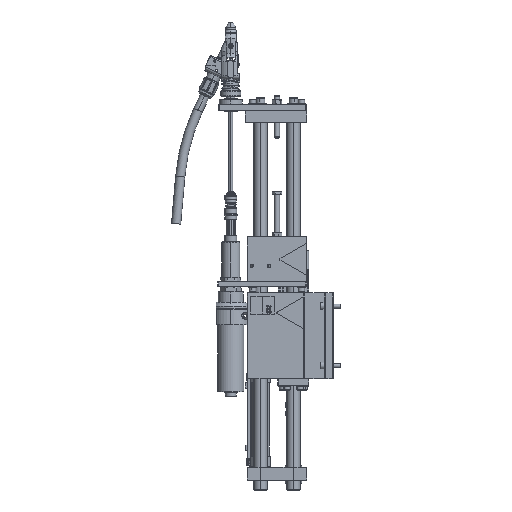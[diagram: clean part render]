
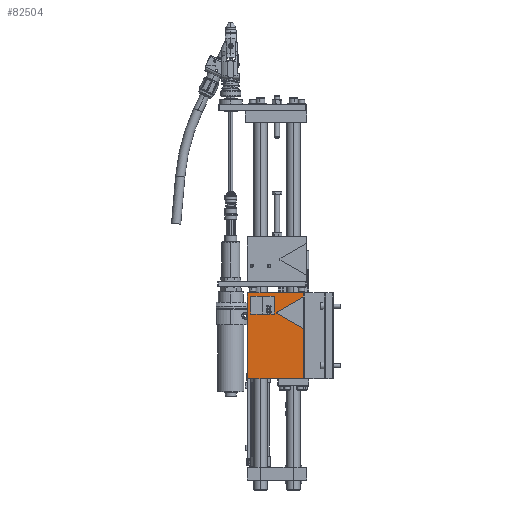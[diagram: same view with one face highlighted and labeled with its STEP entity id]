
A CAD part, left-side view. The second image highlights one B-rep face of the part: STEP entity #82504.
In plain terms, the highlighted planar face has unit normal (-1, 0, 0).
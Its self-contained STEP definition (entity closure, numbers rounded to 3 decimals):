
#3303 = VERTEX_POINT ( 'NONE', #42067 ) ;
#7831 = CARTESIAN_POINT ( 'NONE',  ( -23.5, -65., 65. ) ) ;
#9581 = VECTOR ( 'NONE', #76303, 1000. ) ;
#11612 = ORIENTED_EDGE ( 'NONE', *, *, #105785, .T. ) ;
#14946 = DIRECTION ( 'NONE',  ( 1., 0., 0. ) ) ;
#15868 = EDGE_CURVE ( 'NONE', #62806, #118384, #82617, .T. ) ;
#16786 = VECTOR ( 'NONE', #70410, 1000. ) ;
#25304 = CARTESIAN_POINT ( 'NONE',  ( -23.5, 0., 0. ) ) ;
#30480 = LINE ( 'NONE', #47654, #9581 ) ;
#42067 = CARTESIAN_POINT ( 'NONE',  ( -23.5, -20., 65. ) ) ;
#47654 = CARTESIAN_POINT ( 'NONE',  ( -23.5, -65., -65. ) ) ;
#49949 = ORIENTED_EDGE ( 'NONE', *, *, #87557, .F. ) ;
#52225 = DIRECTION ( 'NONE',  ( 0., 0., -1. ) ) ;
#52762 = CARTESIAN_POINT ( 'NONE',  ( -23.5, -20., 0. ) ) ;
#62806 = VERTEX_POINT ( 'NONE', #85895 ) ;
#64044 = DIRECTION ( 'NONE',  ( 0., -1., 0. ) ) ;
#70410 = DIRECTION ( 'NONE',  ( 0., 0., -1. ) ) ;
#76303 = DIRECTION ( 'NONE',  ( 0., 1., 0. ) ) ;
#76652 = CARTESIAN_POINT ( 'NONE',  ( -23.5, -20., -65. ) ) ;
#80367 = VECTOR ( 'NONE', #64044, 1000. ) ;
#82504 = ADVANCED_FACE ( 'NONE', ( #95596 ), #94417, .F. ) ;
#82617 = LINE ( 'NONE', #119848, #16786 ) ;
#84007 = EDGE_LOOP ( 'NONE', ( #86801, #100918, #49949, #11612 ) ) ;
#84921 = AXIS2_PLACEMENT_3D ( 'NONE', #25304, #14946, #52225 ) ;
#85895 = CARTESIAN_POINT ( 'NONE',  ( -23.5, 64., 65. ) ) ;
#86801 = ORIENTED_EDGE ( 'NONE', *, *, #107476, .F. ) ;
#87557 = EDGE_CURVE ( 'NONE', #110176, #118384, #30480, .T. ) ;
#92739 = LINE ( 'NONE', #7831, #80367 ) ;
#94417 = PLANE ( 'NONE',  #84921 ) ;
#95596 = FACE_OUTER_BOUND ( 'NONE', #84007, .T. ) ;
#100918 = ORIENTED_EDGE ( 'NONE', *, *, #15868, .T. ) ;
#105785 = EDGE_CURVE ( 'NONE', #110176, #3303, #119301, .T. ) ;
#107476 = EDGE_CURVE ( 'NONE', #62806, #3303, #92739, .T. ) ;
#110176 = VERTEX_POINT ( 'NONE', #76652 ) ;
#112915 = VECTOR ( 'NONE', #116885, 1000. ) ;
#116885 = DIRECTION ( 'NONE',  ( 0., 0., 1. ) ) ;
#118384 = VERTEX_POINT ( 'NONE', #119647 ) ;
#119301 = LINE ( 'NONE', #52762, #112915 ) ;
#119647 = CARTESIAN_POINT ( 'NONE',  ( -23.5, 64., -65. ) ) ;
#119848 = CARTESIAN_POINT ( 'NONE',  ( -23.5, 64., 0. ) ) ;
